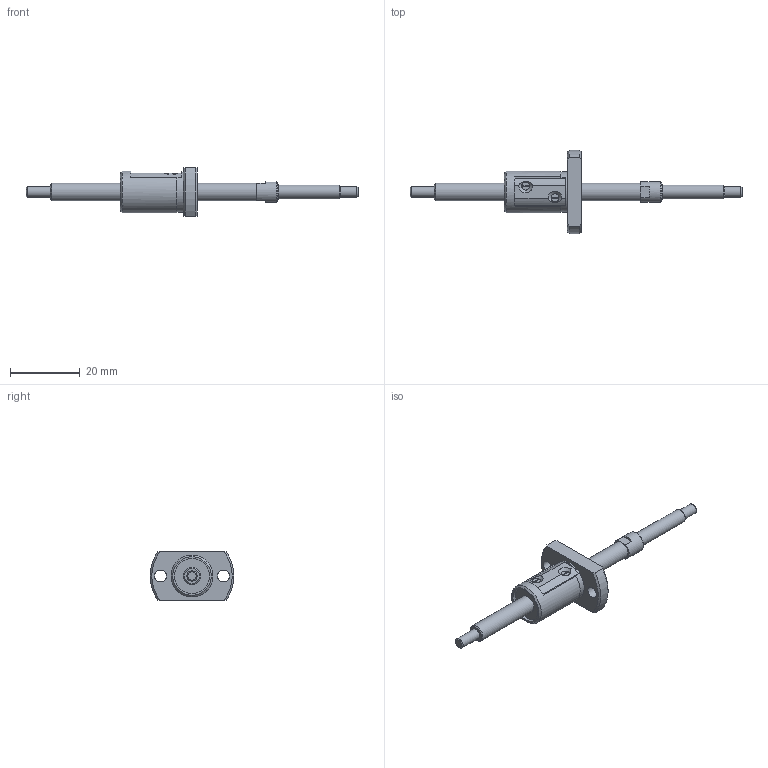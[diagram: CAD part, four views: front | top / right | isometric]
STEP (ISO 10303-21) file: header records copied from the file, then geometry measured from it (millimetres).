
FILE_DESCRIPTION(/* description */ ('STEP AP214'),/* implementation_level */ '2;1');
FILE_NAME(/* name */ 'SG0504-055R095C3C0X(20)',/* time_stamp */ '2026-07-20T19:41:13+02:00',/* author */ ('License CC BY-ND 4.0'),/* organization */ ('CADENAS'),/* preprocessor_version */ 'ST-DEVELOPER v20',/* originating_system */ 'PARTsolutions',/* authorisation */ ' ');
FILE_SCHEMA (('AUTOMOTIVE_DESIGN {1 0 10303 214 3 1 1}'));
Length unit declared in the file: millimetre
Products named in the file (3): SG0504-055R095C3C0X(20); SG0504-55R95C3C_shaft; SG0504_nut
Assembly tree (2 placements, depth 2):
  SG0504-055R095C3C0X(20)
    SG0504-55R95C3C_shaft
    SG0504_nut
Bounding box: 95 x 24 x 14 mm (x, y, z)
Volume: 4225.6 mm3; surface area: 3401.9 mm2
Topology: 2 solids, 2 shells, 75 faces, 181 edges, 118 vertices
Faces by surface type: plane 36, cylinder 24, cone 14, torus 1
Full cylindrical faces by diameter (mm): 3 x2, 3.4 x2, 4 x1, 5 x2, 6 x1, 10 x2, 11.6 x1, 12 x1
Entity records: 2115 total; most frequent: CARTESIAN_POINT 394, DIRECTION 358, ORIENTED_EDGE 298, EDGE_CURVE 149, AXIS2_PLACEMENT_3D 149, EDGE_LOOP 112, FACE_BOUND 112, VERTEX_POINT 109
